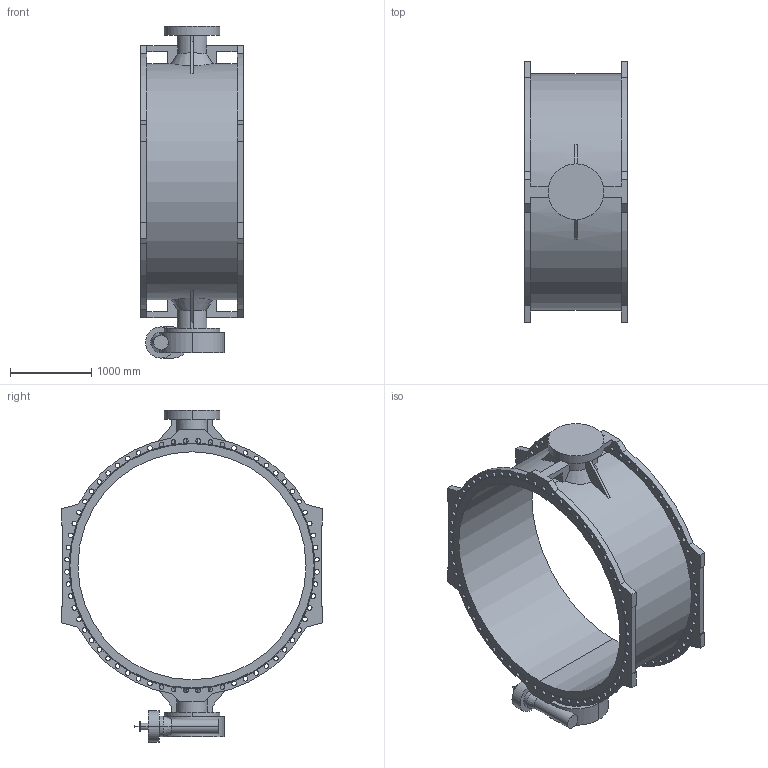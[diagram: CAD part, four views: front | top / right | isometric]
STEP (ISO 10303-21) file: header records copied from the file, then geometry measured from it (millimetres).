
FILE_DESCRIPTION (( 'STEP AP203' ), '1' );
FILE_NAME ('O_756_102_DN2800_0XX020XX_REV05.step', '2022-05-16T09:46:48', ( '' ), ( '' ), 'SwSTEP 2.0', 'SolidWorks 2019', '' );
FILE_SCHEMA (( 'CONFIG_CONTROL_DESIGN' ));
Length unit declared in the file: millimetre
Products named in the file (1): O_756_102_DN2800_0XX020XX_REV05
Bounding box: 1270 x 3200 x 4077 mm (x, y, z)
Volume: 1137898385.2 mm3; surface area: 36007209.3 mm2
Topology: 1 solids, 1 shells, 454 faces, 1709 edges, 1137 vertices
Faces by surface type: cylinder 303, plane 112, cone 18, bspline 17, torus 4
Entity records: 21608 total; most frequent: CARTESIAN_POINT 6258, ORIENTED_EDGE 3418, DIRECTION 3247, EDGE_CURVE 1709, AXIS2_PLACEMENT_3D 1322, VERTEX_POINT 1137, CIRCLE 884, EDGE_LOOP 608
